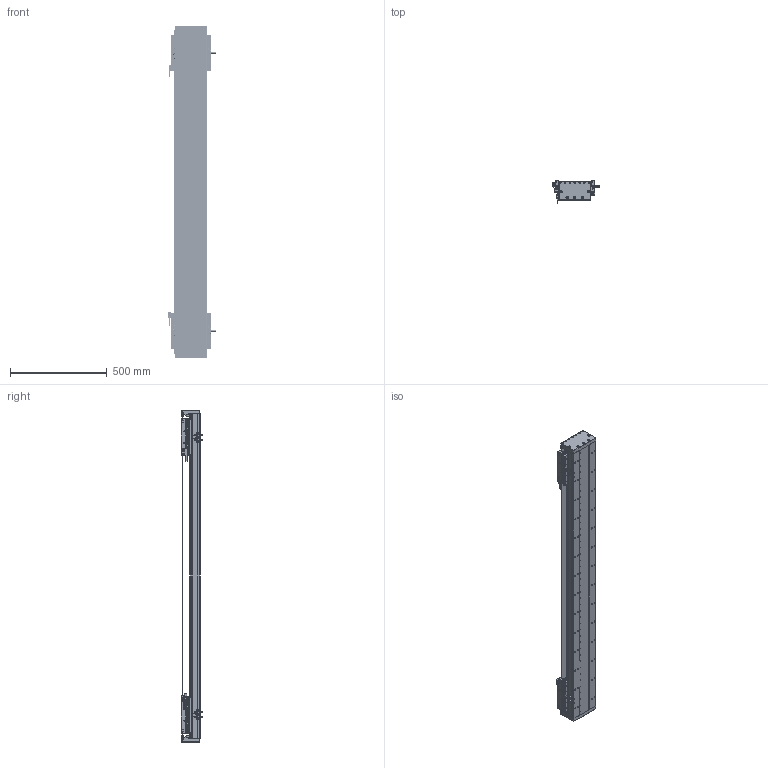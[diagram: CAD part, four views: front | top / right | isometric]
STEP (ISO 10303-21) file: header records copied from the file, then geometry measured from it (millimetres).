
FILE_DESCRIPTION (( 'STEP AP203' ), '1' );
FILE_NAME ('DA-C165-2-C2-T1220-C010-0.2 直线电机.STEP', '2023-05-12T06:41:50', ( '微软用户' ), ( '微软中国' ), 'SwSTEP 2.0', 'SolidWorks 2019', '' );
FILE_SCHEMA (( 'CONFIG_CONTROL_DESIGN' ));
Length unit declared in the file: millimetre
Products named in the file (22): 复件 XD-U-02L 磁栅尺^DA-C165-C2-T-C010-0.2-N 直线电机_T; IU-CU165-L 菁釱絳寢; 复件 DA165-GDYK-00 钢带压块^复件 CU165钢带组件_DA-C165-C2-T-C010-0.2-N 直线电机; 复件 DA165-GYP-00 光电感应片^DA-C165-C2-T-C010-0.2-N 直线电机; 复件 DA165-GD-DG-H-00 端盖^复件 CU165钢带组件_DA-C165-C2-T-C010-0.2-N 直线电机; IU-CU165-L-00 菁釱_L1680; 复件 CKM02-W075-C1C2-TP-3.0 一体电机-C2^DA-C165-C2-T-C010-0.2-N 直线电机; 复件 66338-1000-006-00 光电感应块^DA-C165-C2-T-C010-0.2-N 直线电机; 复件 DMA-010-0.2 读数头^DA-C165-C2-T-C010-0.2-N 直线电机; 复件 CU165钢带组件^DA-C165-C2-T-C010-0.2-N 直线电机; 复件 DA126-GYP-ZJ-00 中间光电感应片^DA-C165-C2-T-C010-0.2-N 直线电机; 复件 DA165-GDLK-00 钢带拉块^复件 CU165钢带组件_DA-C165-C2-T-C010-0.2-N 直线电机; 葩璃 DA95-GT-T-00^IU-CU165-L 菁釱絳寢_T; 复件 DA95-HXJ-00 缓冲橡胶^DA-C165-C2-T-C010-0.2-N 直线电机; 葩璃 CKM01-W075-TRL^DA-C165-C2-T-C010-0.2-N 眻盄萇儂; 复件 DA165-GD-1860-002-00 钢带盖板^复件 CU165钢带组件_DA-C165-C2-T-C010-0.2-N 直线电机; DA-C165-2-C2-T1220-C010-0.2 眻盄萇儂; 复件 六角薄螺母 M3^DA-C165-C2-T-C010-0.2-N 直线电机_GB_FASTENER_NUT_STNAB M3-C; 复件 DKW-HXJ-JY-00 缓冲橡胶^DA-C165-C2-T-C010-0.2-N 直线电机; 珨极趙賑雄怢啣wf-C2; 葩璃 PM-Y45^DA-C165-C2-T-C010-0.2-N 眻盄萇儂; 葩璃 PM-T45^DA-C165-C2-T-C010-0.2-N 眻盄萇儂
Assembly tree (43 placements, depth 3):
  DA-C165-2-C2-T1220-C010-0.2 眻盄萇儂
    IU-CU165-L 菁釱絳寢
      IU-CU165-L-00 菁釱_L1680
      葩璃 DA95-GT-T-00^IU-CU165-L 菁釱絳寢_T  x4
    复件 XD-U-02L 磁栅尺^DA-C165-C2-T-C010-0.2-N 直线电机_T
    葩璃 PM-T45^DA-C165-C2-T-C010-0.2-N 眻盄萇儂  x4
    葩璃 CKM01-W075-TRL^DA-C165-C2-T-C010-0.2-N 眻盄萇儂
    复件 CU165钢带组件^DA-C165-C2-T-C010-0.2-N 直线电机
      复件 DA165-GD-DG-H-00 端盖^复件 CU165钢带组件_DA-C165-C2-T-C010-0.2-N 直线电机  x2
      复件 DA165-GDYK-00 钢带压块^复件 CU165钢带组件_DA-C165-C2-T-C010-0.2-N 直线电机  x2
      复件 DA165-GD-1860-002-00 钢带盖板^复件 CU165钢带组件_DA-C165-C2-T-C010-0.2-N 直线电机
      复件 DA165-GDLK-00 钢带拉块^复件 CU165钢带组件_DA-C165-C2-T-C010-0.2-N 直线电机  x2
    复件 DA95-HXJ-00 缓冲橡胶^DA-C165-C2-T-C010-0.2-N 直线电机  x4
    复件 CKM02-W075-C1C2-TP-3.0 一体电机-C2^DA-C165-C2-T-C010-0.2-N 直线电机  x2
    复件 DMA-010-0.2 读数头^DA-C165-C2-T-C010-0.2-N 直线电机  x2
    复件 DA165-GYP-00 光电感应片^DA-C165-C2-T-C010-0.2-N 直线电机  x2
    复件 66338-1000-006-00 光电感应块^DA-C165-C2-T-C010-0.2-N 直线电机
    葩璃 PM-Y45^DA-C165-C2-T-C010-0.2-N 眻盄萇儂
    复件 DA126-GYP-ZJ-00 中间光电感应片^DA-C165-C2-T-C010-0.2-N 直线电机
    复件 DKW-HXJ-JY-00 缓冲橡胶^DA-C165-C2-T-C010-0.2-N 直线电机  x2
    复件 六角薄螺母 M3^DA-C165-C2-T-C010-0.2-N 直线电机_GB_FASTENER_NUT_STNAB M3-C  x6
    珨极趙賑雄怢啣wf-C2  x2
Bounding box: 247.2 x 111.45 x 1720 mm (x, y, z)
Volume: 11879286.2 mm3; surface area: 3301602.3 mm2
Topology: 119 solids, 119 shells, 5195 faces, 14152 edges, 8860 vertices
Faces by surface type: cylinder 2628, plane 1775, cone 704, torus 80, sphere 8
Entity records: 112846 total; most frequent: CARTESIAN_POINT 27865, ORIENTED_EDGE 17248, DIRECTION 17170, EDGE_CURVE 8624, AXIS2_PLACEMENT_3D 6466, VERTEX_POINT 5597, VECTOR 4238, LINE 4238
